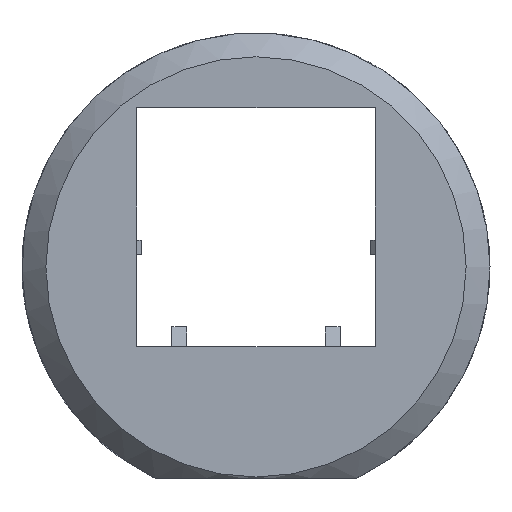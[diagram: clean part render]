
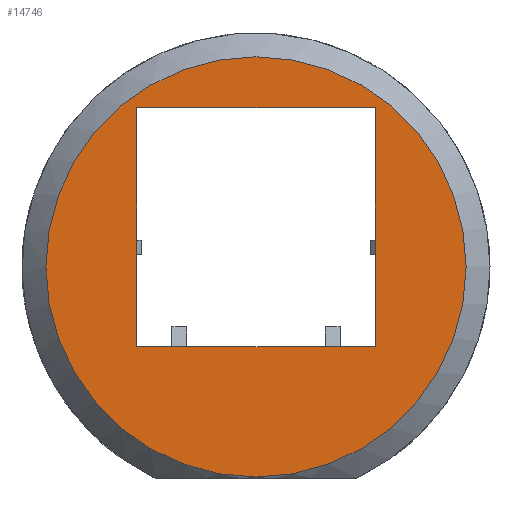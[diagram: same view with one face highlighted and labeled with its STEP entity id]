
A CAD part, top view. The second image highlights one B-rep face of the part: STEP entity #14746.
In plain terms, the highlighted planar face has unit normal (0, 0, 1).
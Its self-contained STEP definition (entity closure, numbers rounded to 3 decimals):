
#71 = CONICAL_SURFACE('',#72,23.5,0.785);
#72 = AXIS2_PLACEMENT_3D('',#73,#74,#75);
#73 = CARTESIAN_POINT('',(0.,0.,21.));
#74 = DIRECTION('',(-0.,-0.,-1.));
#75 = DIRECTION('',(1.,0.,0.));
#9348 = PLANE('',#9349);
#9349 = AXIS2_PLACEMENT_3D('',#9350,#9351,#9352);
#9350 = CARTESIAN_POINT('',(-12.,-8.,14.9));
#9351 = DIRECTION('',(1.,0.,0.));
#9352 = DIRECTION('',(0.,0.,1.));
#9725 = VERTEX_POINT('',#9726);
#9726 = CARTESIAN_POINT('',(-12.,-8.,23.4));
#9740 = PLANE('',#9741);
#9741 = AXIS2_PLACEMENT_3D('',#9742,#9743,#9744);
#9742 = CARTESIAN_POINT('',(-12.,-8.,14.9));
#9743 = DIRECTION('',(0.,1.,0.));
#9744 = DIRECTION('',(0.,0.,1.));
#9873 = VERTEX_POINT('',#9874);
#9874 = CARTESIAN_POINT('',(-12.,16.,23.4));
#9888 = PLANE('',#9889);
#9889 = AXIS2_PLACEMENT_3D('',#9890,#9891,#9892);
#9890 = CARTESIAN_POINT('',(-12.,16.,14.9));
#9891 = DIRECTION('',(0.,1.,0.));
#9892 = DIRECTION('',(0.,0.,1.));
#9900 = EDGE_CURVE('',#9725,#9873,#9901,.T.);
#9901 = SURFACE_CURVE('',#9902,(#9906,#9913),.PCURVE_S1.);
#9902 = LINE('',#9903,#9904);
#9903 = CARTESIAN_POINT('',(-12.,-4.,23.4));
#9904 = VECTOR('',#9905,1.);
#9905 = DIRECTION('',(0.,1.,0.));
#9906 = PCURVE('',#9348,#9907);
#9907 = DEFINITIONAL_REPRESENTATION('',(#9908),#9912);
#9908 = LINE('',#9909,#9910);
#9909 = CARTESIAN_POINT('',(8.5,-4.));
#9910 = VECTOR('',#9911,1.);
#9911 = DIRECTION('',(0.,-1.));
#9912 = ( GEOMETRIC_REPRESENTATION_CONTEXT(2) 
PARAMETRIC_REPRESENTATION_CONTEXT() REPRESENTATION_CONTEXT('2D SPACE',''
  ) );
#9913 = PCURVE('',#9914,#9919);
#9914 = PLANE('',#9915);
#9915 = AXIS2_PLACEMENT_3D('',#9916,#9917,#9918);
#9916 = CARTESIAN_POINT('',(0.,0.,23.4)
  );
#9917 = DIRECTION('',(0.,0.,1.));
#9918 = DIRECTION('',(1.,0.,-0.));
#9919 = DEFINITIONAL_REPRESENTATION('',(#9920),#9924);
#9920 = LINE('',#9921,#9922);
#9921 = CARTESIAN_POINT('',(-12.,-4.));
#9922 = VECTOR('',#9923,1.);
#9923 = DIRECTION('',(0.,1.));
#9924 = ( GEOMETRIC_REPRESENTATION_CONTEXT(2) 
PARAMETRIC_REPRESENTATION_CONTEXT() REPRESENTATION_CONTEXT('2D SPACE',''
  ) );
#10272 = PLANE('',#10273);
#10273 = AXIS2_PLACEMENT_3D('',#10274,#10275,#10276);
#10274 = CARTESIAN_POINT('',(12.,-8.,14.9));
#10275 = DIRECTION('',(1.,0.,0.));
#10276 = DIRECTION('',(0.,0.,1.));
#11157 = VERTEX_POINT('',#11158);
#11158 = CARTESIAN_POINT('',(12.,-8.,23.4));
#11337 = VERTEX_POINT('',#11338);
#11338 = CARTESIAN_POINT('',(12.,16.,23.4));
#11359 = EDGE_CURVE('',#11157,#11337,#11360,.T.);
#11360 = SURFACE_CURVE('',#11361,(#11365,#11372),.PCURVE_S1.);
#11361 = LINE('',#11362,#11363);
#11362 = CARTESIAN_POINT('',(12.,-4.,23.4));
#11363 = VECTOR('',#11364,1.);
#11364 = DIRECTION('',(0.,1.,0.));
#11365 = PCURVE('',#10272,#11366);
#11366 = DEFINITIONAL_REPRESENTATION('',(#11367),#11371);
#11367 = LINE('',#11368,#11369);
#11368 = CARTESIAN_POINT('',(8.5,-4.));
#11369 = VECTOR('',#11370,1.);
#11370 = DIRECTION('',(0.,-1.));
#11371 = ( GEOMETRIC_REPRESENTATION_CONTEXT(2) 
PARAMETRIC_REPRESENTATION_CONTEXT() REPRESENTATION_CONTEXT('2D SPACE',''
  ) );
#11372 = PCURVE('',#9914,#11373);
#11373 = DEFINITIONAL_REPRESENTATION('',(#11374),#11378);
#11374 = LINE('',#11375,#11376);
#11375 = CARTESIAN_POINT('',(12.,-4.));
#11376 = VECTOR('',#11377,1.);
#11377 = DIRECTION('',(0.,1.));
#11378 = ( GEOMETRIC_REPRESENTATION_CONTEXT(2) 
PARAMETRIC_REPRESENTATION_CONTEXT() REPRESENTATION_CONTEXT('2D SPACE',''
  ) );
#14727 = EDGE_CURVE('',#11337,#9873,#14728,.T.);
#14728 = SURFACE_CURVE('',#14729,(#14733,#14739),.PCURVE_S1.);
#14729 = LINE('',#14730,#14731);
#14730 = CARTESIAN_POINT('',(-6.,16.,23.4));
#14731 = VECTOR('',#14732,1.);
#14732 = DIRECTION('',(-1.,0.,0.));
#14733 = PCURVE('',#9888,#14734);
#14734 = DEFINITIONAL_REPRESENTATION('',(#14735),#14738);
#14735 = B_SPLINE_CURVE_WITH_KNOTS('',1,(#14736,#14737),.UNSPECIFIED.,
  .F.,.F.,(2,2),(-18.,6.),.PIECEWISE_BEZIER_KNOTS.);
#14736 = CARTESIAN_POINT('',(8.5,24.));
#14737 = CARTESIAN_POINT('',(8.5,0.));
#14738 = ( GEOMETRIC_REPRESENTATION_CONTEXT(2) 
PARAMETRIC_REPRESENTATION_CONTEXT() REPRESENTATION_CONTEXT('2D SPACE',''
  ) );
#14739 = PCURVE('',#9914,#14740);
#14740 = DEFINITIONAL_REPRESENTATION('',(#14741),#14745);
#14741 = LINE('',#14742,#14743);
#14742 = CARTESIAN_POINT('',(-6.,16.));
#14743 = VECTOR('',#14744,1.);
#14744 = DIRECTION('',(-1.,0.));
#14745 = ( GEOMETRIC_REPRESENTATION_CONTEXT(2) 
PARAMETRIC_REPRESENTATION_CONTEXT() REPRESENTATION_CONTEXT('2D SPACE',''
  ) );
#14746 = ADVANCED_FACE('',(#14747,#14777),#9914,.T.);
#14747 = FACE_BOUND('',#14748,.T.);
#14748 = EDGE_LOOP('',(#14749));
#14749 = ORIENTED_EDGE('',*,*,#14750,.F.);
#14750 = EDGE_CURVE('',#14751,#14751,#14753,.T.);
#14751 = VERTEX_POINT('',#14752);
#14752 = CARTESIAN_POINT('',(21.1,0.,23.4));
#14753 = SURFACE_CURVE('',#14754,(#14759,#14770),.PCURVE_S1.);
#14754 = CIRCLE('',#14755,21.1);
#14755 = AXIS2_PLACEMENT_3D('',#14756,#14757,#14758);
#14756 = CARTESIAN_POINT('',(0.,0.,
    23.4));
#14757 = DIRECTION('',(-0.,0.,-1.));
#14758 = DIRECTION('',(1.,0.,-0.));
#14759 = PCURVE('',#9914,#14760);
#14760 = DEFINITIONAL_REPRESENTATION('',(#14761),#14769);
#14761 = ( BOUNDED_CURVE() B_SPLINE_CURVE(2,(#14762,#14763,#14764,#14765
    ,#14766,#14767,#14768),.UNSPECIFIED.,.T.,.F.) 
B_SPLINE_CURVE_WITH_KNOTS((1,2,2,2,2,1),(-2.094,0.,
    2.094,4.189,6.283,8.378),
.UNSPECIFIED.) CURVE() GEOMETRIC_REPRESENTATION_ITEM() 
RATIONAL_B_SPLINE_CURVE((1.,0.5,1.,0.5,1.,0.5,1.)) REPRESENTATION_ITEM(
  '') );
#14762 = CARTESIAN_POINT('',(21.1,0.));
#14763 = CARTESIAN_POINT('',(21.1,-36.546));
#14764 = CARTESIAN_POINT('',(-10.55,-18.273));
#14765 = CARTESIAN_POINT('',(-42.2,0.));
#14766 = CARTESIAN_POINT('',(-10.55,18.273));
#14767 = CARTESIAN_POINT('',(21.1,36.546));
#14768 = CARTESIAN_POINT('',(21.1,0.));
#14769 = ( GEOMETRIC_REPRESENTATION_CONTEXT(2) 
PARAMETRIC_REPRESENTATION_CONTEXT() REPRESENTATION_CONTEXT('2D SPACE',''
  ) );
#14770 = PCURVE('',#71,#14771);
#14771 = DEFINITIONAL_REPRESENTATION('',(#14772),#14776);
#14772 = LINE('',#14773,#14774);
#14773 = CARTESIAN_POINT('',(-6.283,-2.4));
#14774 = VECTOR('',#14775,1.);
#14775 = DIRECTION('',(1.,-0.));
#14776 = ( GEOMETRIC_REPRESENTATION_CONTEXT(2) 
PARAMETRIC_REPRESENTATION_CONTEXT() REPRESENTATION_CONTEXT('2D SPACE',''
  ) );
#14777 = FACE_BOUND('',#14778,.T.);
#14778 = EDGE_LOOP('',(#14779,#14800,#14801,#14802));
#14779 = ORIENTED_EDGE('',*,*,#14780,.T.);
#14780 = EDGE_CURVE('',#11157,#9725,#14781,.T.);
#14781 = SURFACE_CURVE('',#14782,(#14786,#14793),.PCURVE_S1.);
#14782 = LINE('',#14783,#14784);
#14783 = CARTESIAN_POINT('',(-6.,-8.,23.4));
#14784 = VECTOR('',#14785,1.);
#14785 = DIRECTION('',(-1.,0.,0.));
#14786 = PCURVE('',#9914,#14787);
#14787 = DEFINITIONAL_REPRESENTATION('',(#14788),#14792);
#14788 = LINE('',#14789,#14790);
#14789 = CARTESIAN_POINT('',(-6.,-8.));
#14790 = VECTOR('',#14791,1.);
#14791 = DIRECTION('',(-1.,0.));
#14792 = ( GEOMETRIC_REPRESENTATION_CONTEXT(2) 
PARAMETRIC_REPRESENTATION_CONTEXT() REPRESENTATION_CONTEXT('2D SPACE',''
  ) );
#14793 = PCURVE('',#9740,#14794);
#14794 = DEFINITIONAL_REPRESENTATION('',(#14795),#14799);
#14795 = LINE('',#14796,#14797);
#14796 = CARTESIAN_POINT('',(8.5,6.));
#14797 = VECTOR('',#14798,1.);
#14798 = DIRECTION('',(0.,-1.));
#14799 = ( GEOMETRIC_REPRESENTATION_CONTEXT(2) 
PARAMETRIC_REPRESENTATION_CONTEXT() REPRESENTATION_CONTEXT('2D SPACE',''
  ) );
#14800 = ORIENTED_EDGE('',*,*,#9900,.T.);
#14801 = ORIENTED_EDGE('',*,*,#14727,.F.);
#14802 = ORIENTED_EDGE('',*,*,#11359,.F.);
